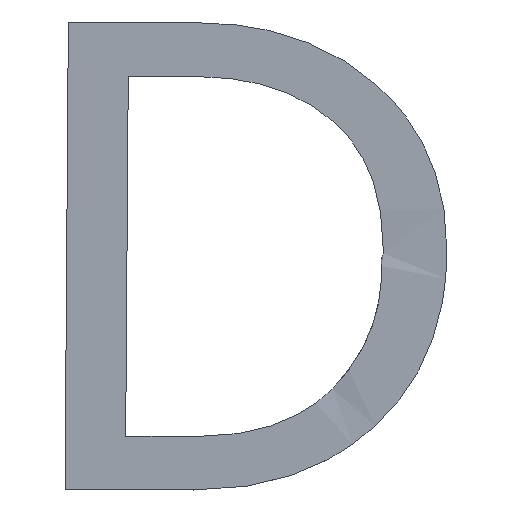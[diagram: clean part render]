
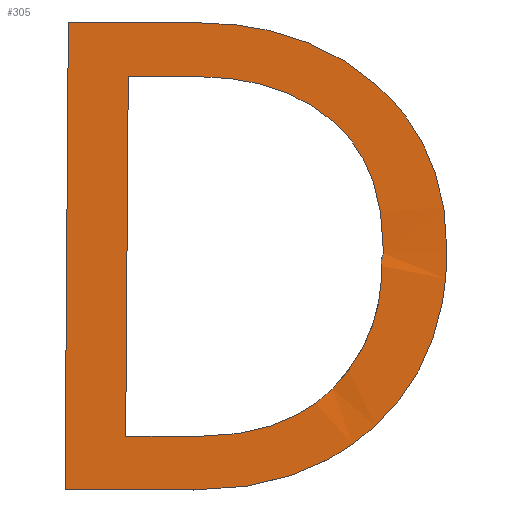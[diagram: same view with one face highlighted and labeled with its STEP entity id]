
A CAD part, top view. The second image highlights one B-rep face of the part: STEP entity #305.
In plain terms, the highlighted planar face has unit normal (0, 0, 1).
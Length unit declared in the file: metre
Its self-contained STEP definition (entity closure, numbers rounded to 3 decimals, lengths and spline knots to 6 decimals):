
#19=PLANE('',#426);
#21=CIRCLE('',#418,0.000043);
#28=LINE('',#543,#52);
#31=LINE('',#549,#55);
#33=LINE('',#552,#57);
#36=LINE('',#559,#60);
#39=LINE('',#565,#63);
#46=LINE('',#646,#70);
#52=VECTOR('',#442,1.);
#55=VECTOR('',#447,1.);
#57=VECTOR('',#451,1.);
#60=VECTOR('',#456,1.);
#63=VECTOR('',#461,1.);
#70=VECTOR('',#470,1.);
#137=ORIENTED_EDGE('',*,*,#167,.F.);
#138=ORIENTED_EDGE('',*,*,#169,.F.);
#139=ORIENTED_EDGE('',*,*,#153,.F.);
#140=ORIENTED_EDGE('',*,*,#156,.F.);
#141=ORIENTED_EDGE('',*,*,#158,.F.);
#142=ORIENTED_EDGE('',*,*,#161,.F.);
#143=ORIENTED_EDGE('',*,*,#164,.F.);
#144=ORIENTED_EDGE('',*,*,#190,.T.);
#145=ORIENTED_EDGE('',*,*,#187,.T.);
#146=ORIENTED_EDGE('',*,*,#184,.T.);
#147=ORIENTED_EDGE('',*,*,#181,.T.);
#148=ORIENTED_EDGE('',*,*,#178,.T.);
#149=ORIENTED_EDGE('',*,*,#175,.T.);
#150=ORIENTED_EDGE('',*,*,#172,.T.);
#153=EDGE_CURVE('',#193,#194,#218,.T.);
#156=EDGE_CURVE('',#195,#193,#220,.T.);
#158=EDGE_CURVE('',#196,#195,#21,.T.);
#161=EDGE_CURVE('',#198,#196,#222,.T.);
#164=EDGE_CURVE('',#200,#198,#28,.T.);
#167=EDGE_CURVE('',#202,#200,#31,.T.);
#169=EDGE_CURVE('',#194,#202,#33,.T.);
#172=EDGE_CURVE('',#206,#205,#36,.T.);
#175=EDGE_CURVE('',#208,#206,#39,.T.);
#178=EDGE_CURVE('',#210,#208,#224,.T.);
#181=EDGE_CURVE('',#212,#210,#226,.T.);
#184=EDGE_CURVE('',#214,#212,#228,.T.);
#187=EDGE_CURVE('',#216,#214,#230,.T.);
#190=EDGE_CURVE('',#205,#216,#46,.T.);
#193=VERTEX_POINT('',#491);
#194=VERTEX_POINT('',#496);
#195=VERTEX_POINT('',#510);
#196=VERTEX_POINT('',#517);
#198=VERTEX_POINT('',#533);
#200=VERTEX_POINT('',#542);
#202=VERTEX_POINT('',#548);
#205=VERTEX_POINT('',#558);
#206=VERTEX_POINT('',#560);
#208=VERTEX_POINT('',#566);
#210=VERTEX_POINT('',#585);
#212=VERTEX_POINT('',#604);
#214=VERTEX_POINT('',#623);
#216=VERTEX_POINT('',#642);
#218=B_SPLINE_CURVE_WITH_KNOTS('',3,(#492,#493,#494,#495),.UNSPECIFIED.,
 .F.,.F.,(4,4),(5.,6.),.UNSPECIFIED.);
#220=B_SPLINE_CURVE_WITH_KNOTS('',3,(#511,#512,#513,#514),.UNSPECIFIED.,
 .F.,.F.,(4,4),(4.,5.),.UNSPECIFIED.);
#222=B_SPLINE_CURVE_WITH_KNOTS('',3,(#534,#535,#536,#537),.UNSPECIFIED.,
 .F.,.F.,(4,4),(2.,3.),.UNSPECIFIED.);
#224=B_SPLINE_CURVE_WITH_KNOTS('',3,(#581,#582,#583,#584),.UNSPECIFIED.,
 .F.,.F.,(4,4),(2.,3.),.UNSPECIFIED.);
#226=B_SPLINE_CURVE_WITH_KNOTS('',3,(#600,#601,#602,#603),.UNSPECIFIED.,
 .F.,.F.,(4,4),(3.,4.),.UNSPECIFIED.);
#228=B_SPLINE_CURVE_WITH_KNOTS('',3,(#619,#620,#621,#622),.UNSPECIFIED.,
 .F.,.F.,(4,4),(4.,5.),.UNSPECIFIED.);
#230=B_SPLINE_CURVE_WITH_KNOTS('',3,(#638,#639,#640,#641),.UNSPECIFIED.,
 .F.,.F.,(4,4),(5.,6.),.UNSPECIFIED.);
#247=EDGE_LOOP('',(#137,#138,#139,#140,#141,#142,#143));
#248=EDGE_LOOP('',(#144,#145,#146,#147,#148,#149,#150));
#265=FACE_BOUND('',#247,.T.);
#266=FACE_BOUND('',#248,.T.);
#305=ADVANCED_FACE('',(#265,#266),#19,.T.);
#418=AXIS2_PLACEMENT_3D('',#518,#435,#436);
#426=AXIS2_PLACEMENT_3D('',#648,#473,#474);
#435=DIRECTION('',(0.,0.,1.));
#436=DIRECTION('',(-1.,0.,0.));
#442=DIRECTION('',(1.,-0.007,0.));
#447=DIRECTION('',(-0.007,-1.,0.));
#451=DIRECTION('',(-1.,0.007,0.));
#456=DIRECTION('',(-0.007,-1.,0.));
#461=DIRECTION('',(-1.,0.007,0.));
#470=DIRECTION('',(1.,-0.007,0.));
#473=DIRECTION('',(0.,0.,1.));
#474=DIRECTION('',(-1.,0.,0.));
#491=CARTESIAN_POINT('',(-0.127823,-0.065517,0.011051));
#492=CARTESIAN_POINT('',(-0.127823,-0.065517,0.011051));
#493=CARTESIAN_POINT('',(-0.127832,-0.065509,0.011051));
#494=CARTESIAN_POINT('',(-0.127844,-0.065505,0.011051));
#495=CARTESIAN_POINT('',(-0.127858,-0.065505,0.011051));
#496=CARTESIAN_POINT('',(-0.127858,-0.065505,0.011051));
#510=CARTESIAN_POINT('',(-0.12781,-0.065551,0.011051));
#511=CARTESIAN_POINT('',(-0.12781,-0.065551,0.011051));
#512=CARTESIAN_POINT('',(-0.12781,-0.065536,0.011051));
#513=CARTESIAN_POINT('',(-0.127814,-0.065525,0.011051));
#514=CARTESIAN_POINT('',(-0.127823,-0.065517,0.011051));
#517=CARTESIAN_POINT('',(-0.127823,-0.065587,0.011051));
#518=CARTESIAN_POINT('',(-0.127853,-0.065556,0.011051));
#533=CARTESIAN_POINT('',(-0.12786,-0.065599,0.011051));
#534=CARTESIAN_POINT('',(-0.12786,-0.065599,0.011051));
#535=CARTESIAN_POINT('',(-0.127844,-0.065599,0.011051));
#536=CARTESIAN_POINT('',(-0.127832,-0.065595,0.011051));
#537=CARTESIAN_POINT('',(-0.127823,-0.065587,0.011051));
#542=CARTESIAN_POINT('',(-0.127877,-0.065599,0.011051));
#543=CARTESIAN_POINT('',(-0.127877,-0.065599,0.011051));
#548=CARTESIAN_POINT('',(-0.127877,-0.065505,0.011051));
#549=CARTESIAN_POINT('',(-0.127877,-0.065505,0.011051));
#552=CARTESIAN_POINT('',(-0.127858,-0.065505,0.011051));
#558=CARTESIAN_POINT('',(-0.127893,-0.065613,0.011051));
#559=CARTESIAN_POINT('',(-0.127893,-0.065613,0.011051));
#560=CARTESIAN_POINT('',(-0.127892,-0.065491,0.011051));
#565=CARTESIAN_POINT('',(-0.127892,-0.065491,0.011051));
#566=CARTESIAN_POINT('',(-0.127857,-0.065491,0.011051));
#581=CARTESIAN_POINT('',(-0.127811,-0.065508,0.011051));
#582=CARTESIAN_POINT('',(-0.127824,-0.065497,0.011051));
#583=CARTESIAN_POINT('',(-0.127839,-0.065491,0.011051));
#584=CARTESIAN_POINT('',(-0.127857,-0.065491,0.011051));
#585=CARTESIAN_POINT('',(-0.127811,-0.065508,0.011051));
#600=CARTESIAN_POINT('',(-0.127793,-0.065551,0.011051));
#601=CARTESIAN_POINT('',(-0.127793,-0.065533,0.011051));
#602=CARTESIAN_POINT('',(-0.127799,-0.065519,0.011051));
#603=CARTESIAN_POINT('',(-0.127811,-0.065508,0.011051));
#604=CARTESIAN_POINT('',(-0.127793,-0.065551,0.011051));
#619=CARTESIAN_POINT('',(-0.127812,-0.065596,0.011051));
#620=CARTESIAN_POINT('',(-0.1278,-0.065585,0.011051));
#621=CARTESIAN_POINT('',(-0.127793,-0.06557,0.011051));
#622=CARTESIAN_POINT('',(-0.127793,-0.065551,0.011051));
#623=CARTESIAN_POINT('',(-0.127812,-0.065596,0.011051));
#638=CARTESIAN_POINT('',(-0.12786,-0.065613,0.011051));
#639=CARTESIAN_POINT('',(-0.12784,-0.065613,0.011051));
#640=CARTESIAN_POINT('',(-0.127824,-0.065608,0.011051));
#641=CARTESIAN_POINT('',(-0.127812,-0.065596,0.011051));
#642=CARTESIAN_POINT('',(-0.12786,-0.065613,0.011051));
#646=CARTESIAN_POINT('',(-0.12786,-0.065613,0.011051));
#648=CARTESIAN_POINT('',(-0.127832,-0.065495,0.011051));
